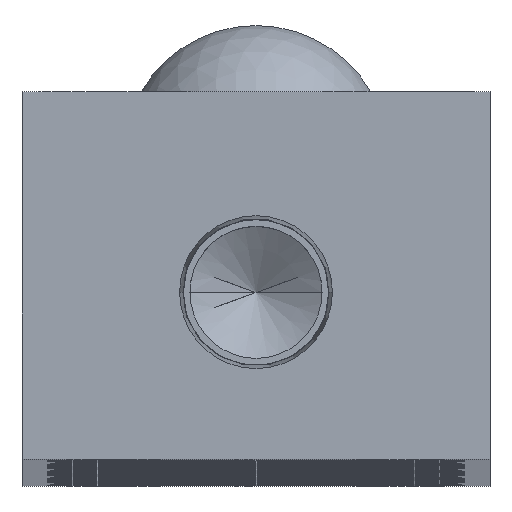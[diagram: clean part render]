
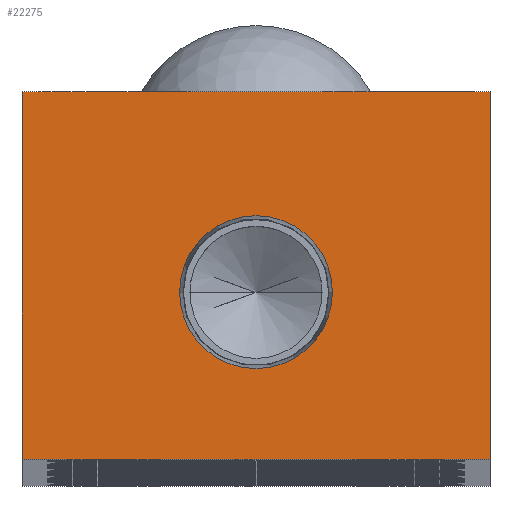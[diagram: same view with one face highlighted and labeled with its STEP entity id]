
A CAD part, top view. The second image highlights one B-rep face of the part: STEP entity #22275.
In plain terms, the highlighted planar face has unit normal (0, 0, 1).
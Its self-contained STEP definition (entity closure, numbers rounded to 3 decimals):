
#638 = DIRECTION ( 'NONE',  ( -1., 0., 0. ) ) ;
#1148 = VERTEX_POINT ( 'NONE', #21765 ) ;
#1400 = CARTESIAN_POINT ( 'NONE',  ( -14., 0., 0. ) ) ;
#1552 = ORIENTED_EDGE ( 'NONE', *, *, #11931, .T. ) ;
#1955 = EDGE_CURVE ( 'NONE', #3777, #15271, #11586, .T. ) ;
#2977 = CARTESIAN_POINT ( 'NONE',  ( -4.574, 10., 0. ) ) ;
#3777 = VERTEX_POINT ( 'NONE', #2977 ) ;
#4925 = AXIS2_PLACEMENT_3D ( 'NONE', #10824, #26220, #13022 ) ;
#5010 = CARTESIAN_POINT ( 'NONE',  ( -14., 22., 0. ) ) ;
#5301 = LINE ( 'NONE', #15713, #28036 ) ;
#6496 = DIRECTION ( 'NONE',  ( 0., 0., -1. ) ) ;
#6886 = EDGE_CURVE ( 'NONE', #8655, #10678, #14490, .T. ) ;
#7473 = ORIENTED_EDGE ( 'NONE', *, *, #19712, .T. ) ;
#7507 = ORIENTED_EDGE ( 'NONE', *, *, #1955, .F. ) ;
#8102 = EDGE_CURVE ( 'NONE', #10678, #22683, #26479, .T. ) ;
#8129 = AXIS2_PLACEMENT_3D ( 'NONE', #28360, #6496, #21950 ) ;
#8387 = CARTESIAN_POINT ( 'NONE',  ( 4.574, 10., 0. ) ) ;
#8655 = VERTEX_POINT ( 'NONE', #14047 ) ;
#9740 = CARTESIAN_POINT ( 'NONE',  ( 14., 22., 0. ) ) ;
#10678 = VERTEX_POINT ( 'NONE', #9740 ) ;
#10702 = AXIS2_PLACEMENT_3D ( 'NONE', #12156, #27535, #14364 ) ;
#10824 = CARTESIAN_POINT ( 'NONE',  ( 0., 10., 0. ) ) ;
#10876 = ORIENTED_EDGE ( 'NONE', *, *, #8102, .T. ) ;
#11040 = FACE_OUTER_BOUND ( 'NONE', #25654, .T. ) ;
#11395 = DIRECTION ( 'NONE',  ( 1., 0., 0. ) ) ;
#11586 = CIRCLE ( 'NONE', #10702, 4.574 ) ;
#11931 = EDGE_CURVE ( 'NONE', #22683, #1148, #16346, .T. ) ;
#12156 = CARTESIAN_POINT ( 'NONE',  ( 0., 10., 0. ) ) ;
#13022 = DIRECTION ( 'NONE',  ( 1., 0., 0. ) ) ;
#13066 = CARTESIAN_POINT ( 'NONE',  ( 14., 0., 0. ) ) ;
#14047 = CARTESIAN_POINT ( 'NONE',  ( 14., 0., 0. ) ) ;
#14119 = FACE_BOUND ( 'NONE', #19433, .T. ) ;
#14364 = DIRECTION ( 'NONE',  ( 1., 0., 0. ) ) ;
#14490 = LINE ( 'NONE', #13066, #26200 ) ;
#14571 = DIRECTION ( 'NONE',  ( 0., -1., 0. ) ) ;
#15271 = VERTEX_POINT ( 'NONE', #8387 ) ;
#15713 = CARTESIAN_POINT ( 'NONE',  ( -14., 0., 0. ) ) ;
#16346 = LINE ( 'NONE', #1400, #21552 ) ;
#16352 = ORIENTED_EDGE ( 'NONE', *, *, #24957, .F. ) ;
#17722 = CIRCLE ( 'NONE', #4925, 4.574 ) ;
#17953 = ORIENTED_EDGE ( 'NONE', *, *, #6886, .T. ) ;
#18947 = CARTESIAN_POINT ( 'NONE',  ( -14., 22., 0. ) ) ;
#19433 = EDGE_LOOP ( 'NONE', ( #16352, #7507 ) ) ;
#19707 = PLANE ( 'NONE',  #8129 ) ;
#19712 = EDGE_CURVE ( 'NONE', #1148, #8655, #5301, .T. ) ;
#21552 = VECTOR ( 'NONE', #14571, 1000. ) ;
#21765 = CARTESIAN_POINT ( 'NONE',  ( -14., 0., 0. ) ) ;
#21950 = DIRECTION ( 'NONE',  ( -1., 0., 0. ) ) ;
#22275 = ADVANCED_FACE ( 'NONE', ( #14119, #11040 ), #19707, .F. ) ;
#22683 = VERTEX_POINT ( 'NONE', #18947 ) ;
#24957 = EDGE_CURVE ( 'NONE', #15271, #3777, #17722, .T. ) ;
#25654 = EDGE_LOOP ( 'NONE', ( #1552, #7473, #17953, #10876 ) ) ;
#25796 = VECTOR ( 'NONE', #638, 1000. ) ;
#26200 = VECTOR ( 'NONE', #28470, 1000. ) ;
#26220 = DIRECTION ( 'NONE',  ( 0., 0., 1. ) ) ;
#26479 = LINE ( 'NONE', #5010, #25796 ) ;
#27535 = DIRECTION ( 'NONE',  ( 0., 0., 1. ) ) ;
#28036 = VECTOR ( 'NONE', #11395, 1000. ) ;
#28360 = CARTESIAN_POINT ( 'NONE',  ( 0., 0., 0. ) ) ;
#28470 = DIRECTION ( 'NONE',  ( 0., 1., 0. ) ) ;
